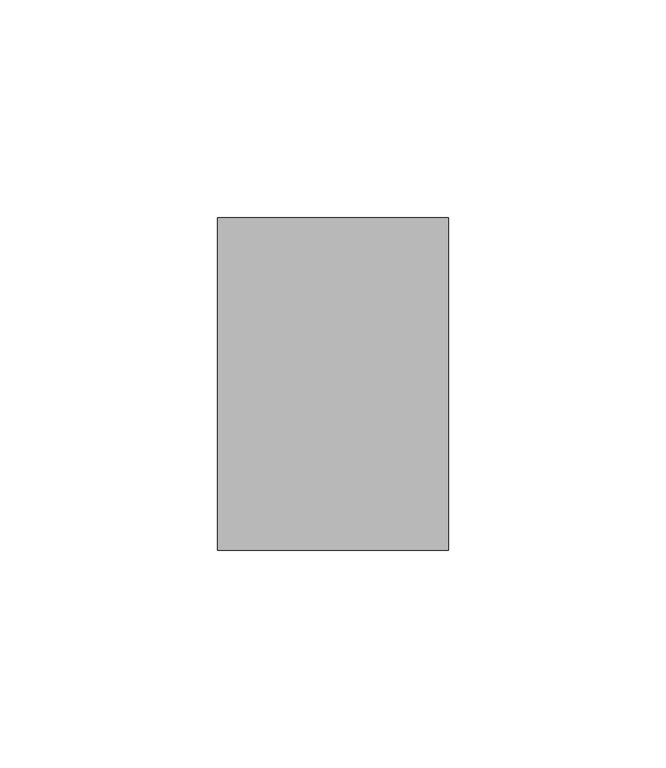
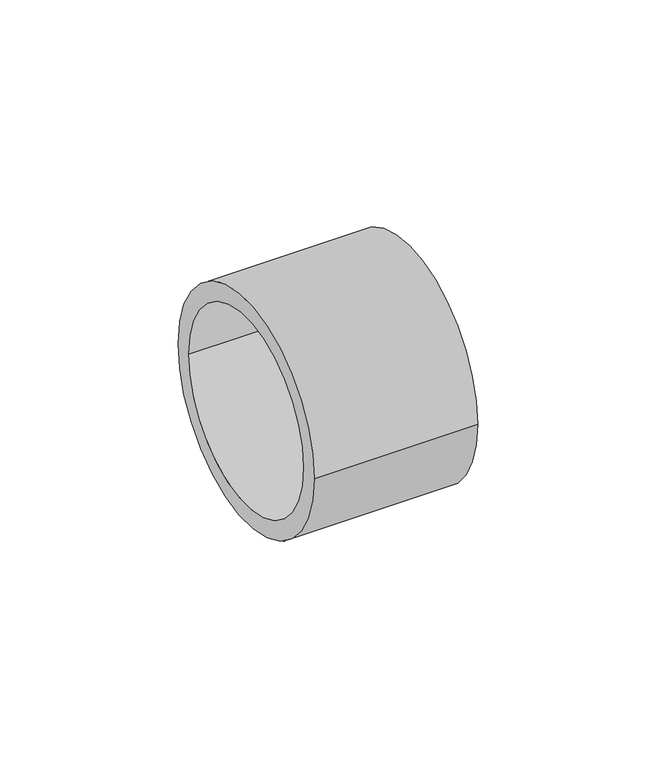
"""IFC4 building model written with IfcOpenShell, lengths in millimetres: pipe fitting geometry, RAUTITAN_Sleeve PX : RTI S PX."""

from ifc_helpers import new_model, si_unit, point, frame, origin, origin_2d, place, context, project, spatial, circle_curve, trimmed, segment, composite_curve, outline, extrude, source, transform, mapped, element, save


def pipe_fitting_7a5bf8d1(model_context):
    return source(origin(), model_context, "Body", "SweptSolid", [
        extrude(outline(composite_curve([segment(trimmed(circle_curve(origin_2d(), 38.15), [point((-38.15, 0.0))], [point((38.15, 0.0))], False, "CARTESIAN"), True, "CONTINUOUS"), segment(trimmed(circle_curve(origin_2d(), 38.15), [point((38.15, 0.0))], [point((-38.15, 0.0))], False, "CARTESIAN"), True, "CONTINUOUS")], self_intersect=False), holes=[composite_curve([segment(trimmed(circle_curve(origin_2d(), 32.15), [point((-32.15, 0.0))], [point((32.15, 0.0))], True, "CARTESIAN"), True, "CONTINUOUS"), segment(trimmed(circle_curve(origin_2d(), 32.15), [point((32.15, 0.0))], [point((-32.15, 0.0))], True, "CARTESIAN"), True, "CONTINUOUS")], self_intersect=False)]), frame((0.0, 0.0, 0.0), z_axis=(1.0, 0.0, 0.0), x_axis=(0.0, 1.0, 0.0)), (0.0, 0.0, 1.0), 53.0),
    ])


if __name__ == "__main__":
    model = new_model("IFC4")
    model_context = context("Model", 3, world=origin())
    ifc_project = project(units=[si_unit("LENGTHUNIT", "METRE", prefix="MILLI")], contexts=[model_context])
    site = spatial("IfcSite", under=ifc_project)
    building = spatial("IfcBuilding", under=site)
    placement = place(None, origin())
    pipe_fitting_shape = pipe_fitting_7a5bf8d1(model_context)
    element("IfcPipeFitting", 1, ObjectType="RAUTITAN_Sleeve PX : RTI S PX", at=placement, inside=building, context=model_context, shape_type="MappedRepresentation", body=[
        mapped(pipe_fitting_shape, transform((0.0, 0.0, 0.0), x_axis=(1.0, 0.0, 0.0), y_axis=(0.0, 1.0, 0.0), z_axis=(0.0, 0.0, 1.0))),
    ])
    save(model, "model.ifc")
